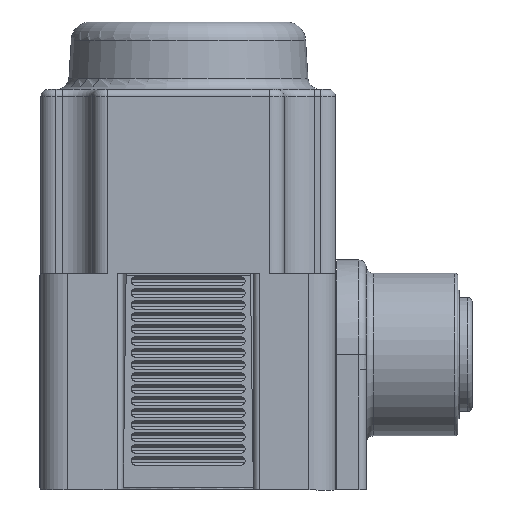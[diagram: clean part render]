
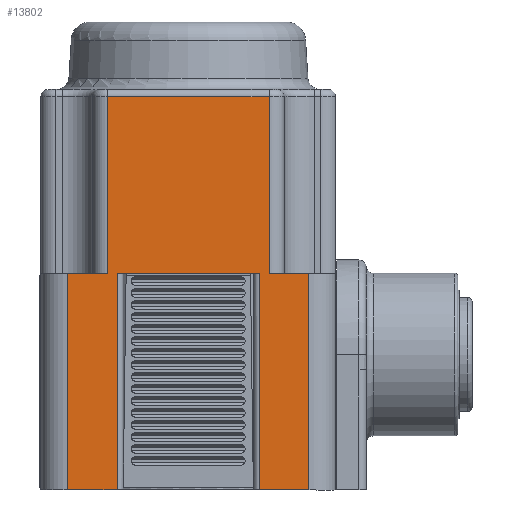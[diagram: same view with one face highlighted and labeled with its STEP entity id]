
A CAD part, left-side view. The second image highlights one B-rep face of the part: STEP entity #13802.
In plain terms, the highlighted planar face has unit normal (-1, 0, 0).
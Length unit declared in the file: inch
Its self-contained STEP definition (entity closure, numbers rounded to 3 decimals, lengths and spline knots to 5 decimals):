
#1620=LINE('',#23716,#2538);
#1633=LINE('',#23786,#2551);
#1756=LINE('',#25362,#2674);
#1774=LINE('',#25422,#2692);
#1775=LINE('',#25426,#2693);
#1778=LINE('',#25445,#2696);
#1791=LINE('',#25514,#2709);
#1792=LINE('',#25518,#2710);
#1793=LINE('',#25519,#2711);
#1794=LINE('',#25521,#2712);
#1795=LINE('',#25523,#2713);
#1796=LINE('',#25524,#2714);
#2538=VECTOR('',#18311,0.3937);
#2551=VECTOR('',#18394,0.3937);
#2674=VECTOR('',#18719,0.3937);
#2692=VECTOR('',#18791,0.3937);
#2693=VECTOR('',#18796,0.3937);
#2696=VECTOR('',#18817,0.3937);
#2709=VECTOR('',#18908,0.3937);
#2710=VECTOR('',#18913,0.3937);
#2711=VECTOR('',#18914,0.3937);
#2712=VECTOR('',#18915,0.3937);
#2713=VECTOR('',#18916,0.3937);
#2714=VECTOR('',#18917,0.3937);
#3535=FACE_OUTER_BOUND('',#4367,.T.);
#4367=EDGE_LOOP('',(#11824,#11825,#11826,#11827,#11828,#11829,#11830,#11831,
#11832,#11833,#11834,#11835));
#5958=VERTEX_POINT('',#23708);
#5960=VERTEX_POINT('',#23714);
#5982=VERTEX_POINT('',#23784);
#6118=VERTEX_POINT('',#25359);
#6119=VERTEX_POINT('',#25361);
#6134=VERTEX_POINT('',#25421);
#6135=VERTEX_POINT('',#25425);
#6142=VERTEX_POINT('',#25443);
#6159=VERTEX_POINT('',#25513);
#6160=VERTEX_POINT('',#25517);
#6161=VERTEX_POINT('',#25520);
#6162=VERTEX_POINT('',#25522);
#7749=EDGE_CURVE('',#5960,#5958,#1620,.T.);
#7785=EDGE_CURVE('',#5982,#5960,#1633,.T.);
#7994=EDGE_CURVE('',#6119,#6118,#1756,.T.);
#8024=EDGE_CURVE('',#6134,#5958,#1774,.T.);
#8026=EDGE_CURVE('',#6135,#6134,#1775,.T.);
#8036=EDGE_CURVE('',#5982,#6142,#1778,.T.);
#8070=EDGE_CURVE('',#6159,#6119,#1791,.T.);
#8072=EDGE_CURVE('',#6160,#6142,#1792,.T.);
#8073=EDGE_CURVE('',#6159,#6160,#1793,.T.);
#8074=EDGE_CURVE('',#6161,#6118,#1794,.T.);
#8075=EDGE_CURVE('',#6161,#6162,#1795,.T.);
#8076=EDGE_CURVE('',#6162,#6135,#1796,.T.);
#11824=ORIENTED_EDGE('',*,*,#7749,.F.);
#11825=ORIENTED_EDGE('',*,*,#7785,.F.);
#11826=ORIENTED_EDGE('',*,*,#8036,.T.);
#11827=ORIENTED_EDGE('',*,*,#8072,.F.);
#11828=ORIENTED_EDGE('',*,*,#8073,.F.);
#11829=ORIENTED_EDGE('',*,*,#8070,.T.);
#11830=ORIENTED_EDGE('',*,*,#7994,.T.);
#11831=ORIENTED_EDGE('',*,*,#8074,.F.);
#11832=ORIENTED_EDGE('',*,*,#8075,.T.);
#11833=ORIENTED_EDGE('',*,*,#8076,.T.);
#11834=ORIENTED_EDGE('',*,*,#8026,.T.);
#11835=ORIENTED_EDGE('',*,*,#8024,.T.);
#12330=PLANE('',#15216);
#13802=ADVANCED_FACE('',(#3535),#12330,.T.);
#15216=AXIS2_PLACEMENT_3D('',#25516,#18911,#18912);
#18311=DIRECTION('',(0.,-1.,0.));
#18394=DIRECTION('',(0.,0.,1.));
#18719=DIRECTION('',(0.,-1.,0.));
#18791=DIRECTION('',(0.,0.,1.));
#18796=DIRECTION('',(0.,1.,0.));
#18817=DIRECTION('',(0.,1.,0.));
#18908=DIRECTION('',(0.,0.,1.));
#18911=DIRECTION('center_axis',(-1.,0.,0.));
#18912=DIRECTION('ref_axis',(0.,0.,1.));
#18913=DIRECTION('',(0.,0.,1.));
#18914=DIRECTION('',(0.,1.,0.));
#18915=DIRECTION('',(0.,0.,1.));
#18916=DIRECTION('',(0.,-1.,0.));
#18917=DIRECTION('',(0.,0.,1.));
#23708=CARTESIAN_POINT('',(1.01495,-0.78722,0.65855));
#23714=CARTESIAN_POINT('',(1.01495,-0.11922,0.65855));
#23716=CARTESIAN_POINT('',(1.01495,-0.11922,0.65855));
#23784=CARTESIAN_POINT('',(1.01495,-0.11922,-0.07345));
#23786=CARTESIAN_POINT('',(1.01495,-0.11922,-0.07345));
#25359=CARTESIAN_POINT('',(1.01495,-0.74722,-0.07345));
#25361=CARTESIAN_POINT('',(1.01495,-0.15922,-0.07345));
#25362=CARTESIAN_POINT('',(1.01495,-0.15922,-0.07345));
#25421=CARTESIAN_POINT('',(1.01495,-0.78722,-0.07345));
#25422=CARTESIAN_POINT('',(1.01495,-0.78722,-0.07345));
#25425=CARTESIAN_POINT('',(1.01495,-0.95222,-0.07345));
#25426=CARTESIAN_POINT('',(1.01495,-0.95222,-0.07345));
#25443=CARTESIAN_POINT('',(1.01495,0.04578,-0.07345));
#25445=CARTESIAN_POINT('',(1.01495,-0.11922,-0.07345));
#25513=CARTESIAN_POINT('',(1.01495,-0.15922,-0.96745));
#25514=CARTESIAN_POINT('',(1.01495,-0.15922,-0.96745));
#25516=CARTESIAN_POINT('Origin',(1.01495,-0.95262,-0.15445));
#25517=CARTESIAN_POINT('',(1.01495,0.04578,-0.96745));
#25518=CARTESIAN_POINT('',(1.01495,0.04578,-0.96745));
#25519=CARTESIAN_POINT('',(1.01495,-0.15922,-0.96745));
#25520=CARTESIAN_POINT('',(1.01495,-0.74722,-0.96745));
#25521=CARTESIAN_POINT('',(1.01495,-0.74722,-0.96745));
#25522=CARTESIAN_POINT('',(1.01495,-0.95222,-0.96745));
#25523=CARTESIAN_POINT('',(1.01495,-0.74722,-0.96745));
#25524=CARTESIAN_POINT('',(1.01495,-0.95222,-0.96745));
